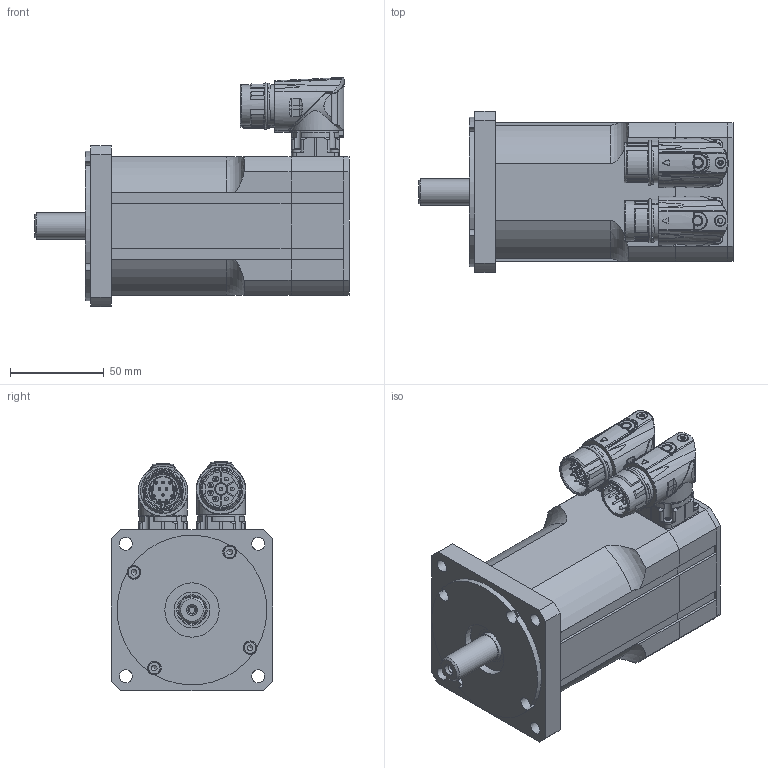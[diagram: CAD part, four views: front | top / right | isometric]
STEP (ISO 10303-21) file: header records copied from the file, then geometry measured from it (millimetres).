
FILE_DESCRIPTION(/* description */ (''),/* implementation_level */ '2;1');
FILE_NAME(/* name */ 'MR6334-Ux-Nxx-G01-A0D-MS-P0.stp',/* time_stamp */ '2020-08-24T11:31:05+02:00',/* author */ (''),/* organization */ (''),/* preprocessor_version */ 'ST-DEVELOPER v18.1',/* originating_system */ 'Autodesk Inventor 2021',/* authorisation */ '');
FILE_SCHEMA (('AUTOMOTIVE_DESIGN { 1 0 10303 214 3 1 1 }'));
Products named in the file (9): MR6334_Ux_Nxx_G01_A0D_MS_P0; MR6334_G01_A0D_MS_front; MR6334_G01_A0D_MS_P0_rear; BED_0201_8-polig, Stift; Basis 2; Basis 11; AED_0201_12-polig, Stift; 124888; 127323
Assembly tree (8 placements, depth 3):
  MR6334_Ux_Nxx_G01_A0D_MS_P0
    MR6334_G01_A0D_MS_front
    MR6334_G01_A0D_MS_P0_rear
    BED_0201_8-polig, Stift
      Basis 2
      Basis 11
    AED_0201_12-polig, Stift
      124888
      127323
Bounding box: 168.2 x 86 x 122.35 mm (x, y, z)
Volume: 782560.5 mm3; surface area: 95272.5 mm2
Topology: 6 solids, 7 shells, 1763 faces, 4701 edges, 2990 vertices
Faces by surface type: cylinder 779, plane 501, bspline 256, cone 112, torus 81, sphere 34
Full cylindrical faces by diameter (mm): 1 x16, 1.18 x12, 1.2 x12, 1.3 x4, 2 x4, 2.208 x8, 2.4 x8, 2.5 x8, 2.7 x4, 2.8 x4, 3 x5, 3.1 x4, 3.2 x1, 3.242 x1, 4 x4, 4.3 x5, 4.5 x2, 5 x8, 5.5 x2, 5.6 x4, 5.8 x1, 5.9 x2, 6.5 x4, 6.8 x1, 7 x8, 7.3 x4, 12 x1, 14 x1, 15 x1, 15.2 x1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
Entity records: 70141 total; most frequent: CARTESIAN_POINT 24565, ORIENTED_EDGE 9306, DIRECTION 9122, EDGE_CURVE 4653, AXIS2_PLACEMENT_3D 3788, VERTEX_POINT 2990, CIRCLE 2058, EDGE_LOOP 1953
